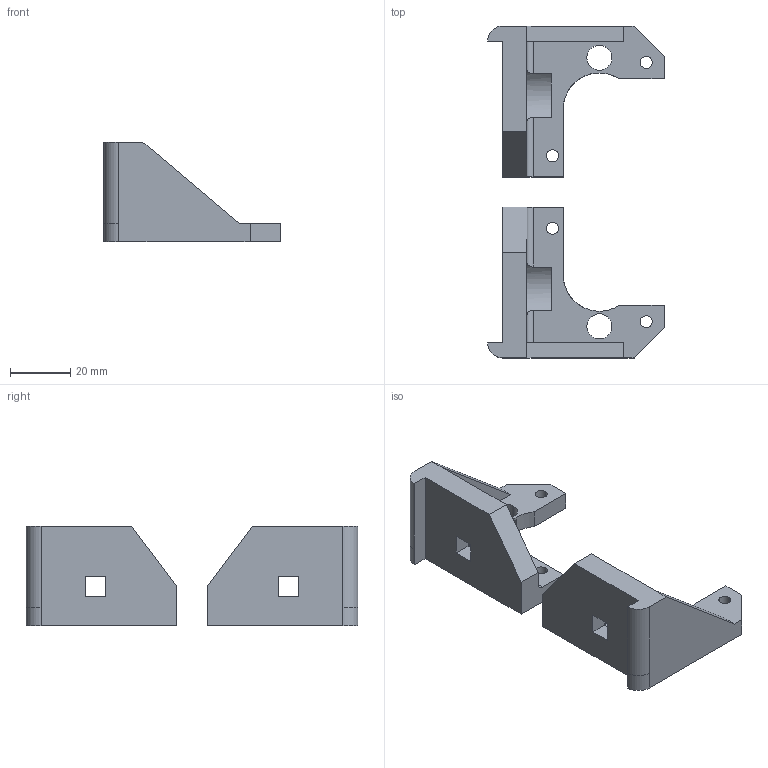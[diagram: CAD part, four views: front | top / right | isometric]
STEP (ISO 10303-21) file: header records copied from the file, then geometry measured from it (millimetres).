
FILE_DESCRIPTION((''),'2;1');
FILE_NAME('07 ZBotton.stp','2016-09-05T11:58:12+00:00',('none'),('none'),'','STEP AP214','none');
FILE_SCHEMA(('AUTOMOTIVE_DESIGN { 1 0 10303 214 1 1 1 1 }'));
Length unit declared in the file: millimetre
Products named in the file (1): Code-Zbotton
Bounding box: 58.5 x 110 x 33 mm (x, y, z)
Volume: 39765.3 mm3; surface area: 16993.6 mm2
Topology: 2 solids, 2 shells, 74 faces, 216 edges, 144 vertices
Faces by surface type: plane 48, cylinder 26
Entity records: 2348 total; most frequent: CARTESIAN_POINT 440, ORIENTED_EDGE 432, DIRECTION 306, EDGE_CURVE 216, VECTOR 154, LINE 154, VERTEX_POINT 144, AXIS2_PLACEMENT_3D 106
